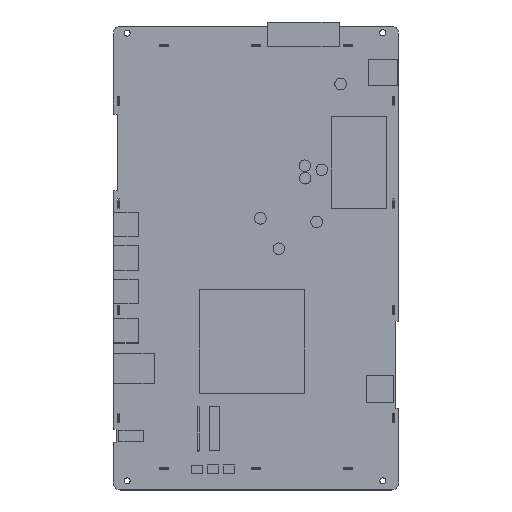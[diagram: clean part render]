
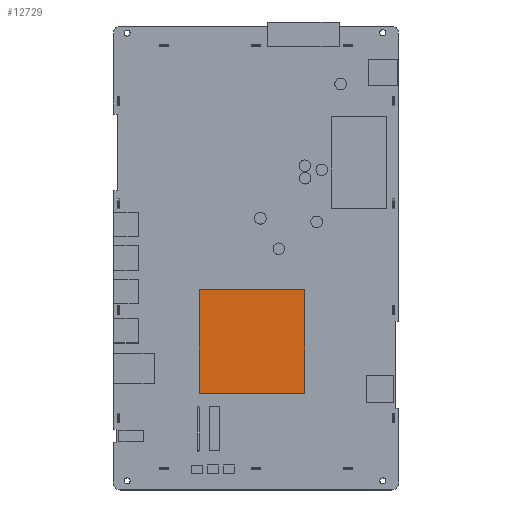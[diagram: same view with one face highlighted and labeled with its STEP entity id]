
A CAD part, top view. The second image highlights one B-rep face of the part: STEP entity #12729.
In plain terms, the highlighted planar face has unit normal (0, 0, 1).
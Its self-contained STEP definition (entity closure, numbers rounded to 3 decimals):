
#3984=DIRECTION('',(0.,-1.,0.));
#3985=VECTOR('',#3984,56.625);
#3986=CARTESIAN_POINT('',(-30.427,-17.766,9.4));
#3987=LINE('',#3986,#3985);
#3988=DIRECTION('',(-1.,0.,0.));
#3989=VECTOR('',#3988,57.525);
#3990=CARTESIAN_POINT('',(27.098,-17.766,9.4));
#3991=LINE('',#3990,#3989);
#3992=DIRECTION('',(0.,1.,0.));
#3993=VECTOR('',#3992,56.625);
#3994=CARTESIAN_POINT('',(27.098,-74.391,9.4));
#3995=LINE('',#3994,#3993);
#3996=DIRECTION('',(1.,0.,0.));
#3997=VECTOR('',#3996,57.525);
#3998=CARTESIAN_POINT('',(-30.427,-74.391,9.4));
#3999=LINE('',#3998,#3997);
#6030=CARTESIAN_POINT('',(-30.427,-17.766,9.4));
#6031=CARTESIAN_POINT('',(-30.427,-74.391,9.4));
#6032=VERTEX_POINT('',#6030);
#6033=VERTEX_POINT('',#6031);
#6034=CARTESIAN_POINT('',(27.098,-74.391,9.4));
#6035=VERTEX_POINT('',#6034);
#6036=CARTESIAN_POINT('',(27.098,-17.766,9.4));
#6037=VERTEX_POINT('',#6036);
#12718=CARTESIAN_POINT('',(-77.066,-101.128,9.4));
#12719=DIRECTION('',(0.,0.,1.));
#12720=DIRECTION('',(0.,-1.,0.));
#12721=AXIS2_PLACEMENT_3D('',#12718,#12719,#12720);
#12722=PLANE('',#12721);
#12723=ORIENTED_EDGE('',*,*,#12670,.F.);
#12724=ORIENTED_EDGE('',*,*,#12685,.F.);
#12725=ORIENTED_EDGE('',*,*,#12699,.F.);
#12726=ORIENTED_EDGE('',*,*,#12712,.F.);
#12727=EDGE_LOOP('',(#12723,#12724,#12725,#12726));
#12728=FACE_OUTER_BOUND('',#12727,.F.);
#12670=EDGE_CURVE('',#6032,#6033,#3987,.T.);
#12685=EDGE_CURVE('',#6037,#6032,#3991,.T.);
#12699=EDGE_CURVE('',#6035,#6037,#3995,.T.);
#12712=EDGE_CURVE('',#6033,#6035,#3999,.T.);
#12729=ADVANCED_FACE('',(#12728),#12722,.T.);
